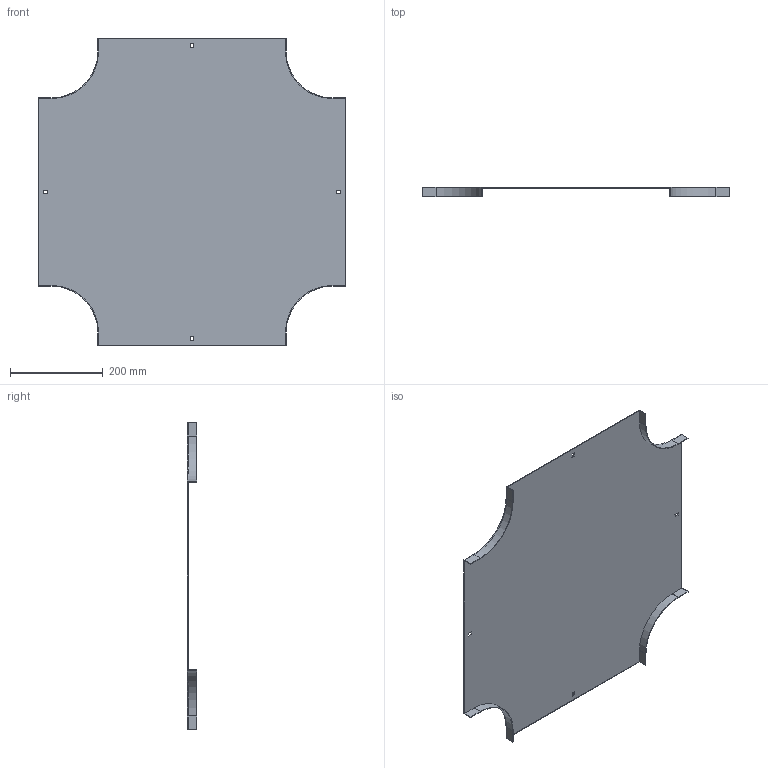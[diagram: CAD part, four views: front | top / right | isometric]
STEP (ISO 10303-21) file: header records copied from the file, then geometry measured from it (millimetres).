
FILE_DESCRIPTION (( 'STEP AP214' ), '1' );
FILE_NAME ('17G1R400.step', '2025-02-21T13:03:23', ( '' ), ( '' ), 'SwSTEP 2.0', 'SolidWorks 2023', '' );
FILE_SCHEMA (( 'AUTOMOTIVE_DESIGN' ));
Length unit declared in the file: millimetre
Products named in the file (1): 17G1R400
Bounding box: 664 x 20 x 664 mm (x, y, z)
Volume: 598377.3 mm3; surface area: 801974.7 mm2
Topology: 1 solids, 1 shells, 50 faces, 144 edges, 96 vertices
Faces by surface type: plane 42, cylinder 8
Entity records: 1663 total; most frequent: CARTESIAN_POINT 291, ORIENTED_EDGE 288, DIRECTION 262, EDGE_CURVE 144, LINE 128, VECTOR 128, VERTEX_POINT 96, AXIS2_PLACEMENT_3D 67
